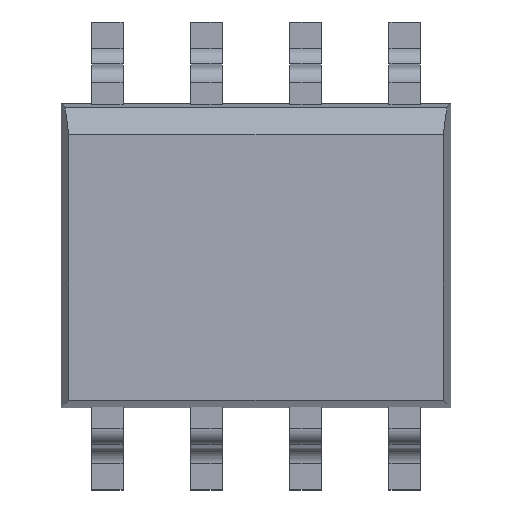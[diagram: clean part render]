
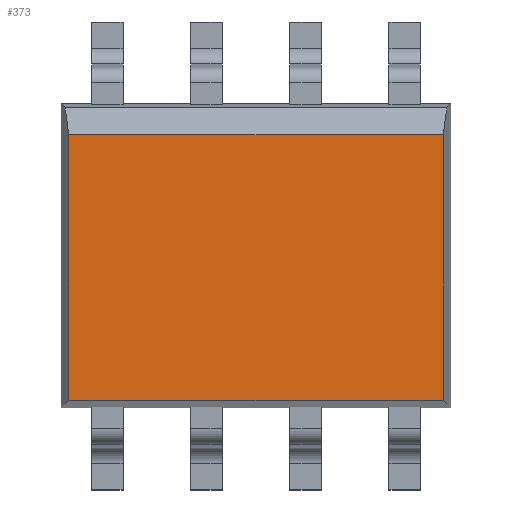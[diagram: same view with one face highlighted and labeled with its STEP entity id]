
A CAD part, top view. The second image highlights one B-rep face of the part: STEP entity #373.
In plain terms, the highlighted planar face has unit normal (0, 0, 1).
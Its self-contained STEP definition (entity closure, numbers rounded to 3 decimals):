
#373=ADVANCED_FACE('',(#523),#522,.T.);
#522=PLANE('',#1825);
#523=FACE_OUTER_BOUND('',#1826,.T.);
#1822=CARTESIAN_POINT('',(-2.88,-2.04,0.));
#1823=DIRECTION('',(0.,0.,1.));
#1824=DIRECTION('',(1.,0.,0.));
#1825=AXIS2_PLACEMENT_3D('',#1822,#1823,#1824);
#1826=EDGE_LOOP('',(#2475,#2476,#2477,#2478));
#2475=ORIENTED_EDGE('',*,*,#3145,.T.);
#2476=ORIENTED_EDGE('',*,*,#3146,.F.);
#2477=ORIENTED_EDGE('',*,*,#3147,.F.);
#2478=ORIENTED_EDGE('',*,*,#3148,.T.);
#3145=EDGE_CURVE('',#3528,#3529,#3530,.T.);
#3146=EDGE_CURVE('',#3536,#3529,#3537,.T.);
#3147=EDGE_CURVE('',#3543,#3536,#3544,.T.);
#3148=EDGE_CURVE('',#3543,#3528,#3550,.T.);
#3528=VERTEX_POINT('',#5736);
#3529=VERTEX_POINT('',#5737);
#3530=LINE('',#5738,#5739);
#3536=VERTEX_POINT('',#5741);
#3537=LINE('',#5742,#5743);
#3543=VERTEX_POINT('',#5745);
#3544=LINE('',#5746,#5747);
#3550=LINE('',#5749,#5750);
#5736=CARTESIAN_POINT('',(-2.4,1.7,0.));
#5737=CARTESIAN_POINT('',(-2.4,-1.7,0.));
#5738=CARTESIAN_POINT('',(-2.4,1.7,0.));
#5739=VECTOR('',#5740,3.4);
#5740=DIRECTION('',(0.,-1.,0.));
#5741=CARTESIAN_POINT('',(2.4,-1.7,0.));
#5742=CARTESIAN_POINT('',(2.4,-1.7,0.));
#5743=VECTOR('',#5744,4.8);
#5744=DIRECTION('',(-1.,0.,0.));
#5745=CARTESIAN_POINT('',(2.4,1.7,0.));
#5746=CARTESIAN_POINT('',(2.4,1.7,0.));
#5747=VECTOR('',#5748,3.4);
#5748=DIRECTION('',(0.,-1.,0.));
#5749=CARTESIAN_POINT('',(2.4,1.7,0.));
#5750=VECTOR('',#5751,4.8);
#5751=DIRECTION('',(-1.,0.,0.));
